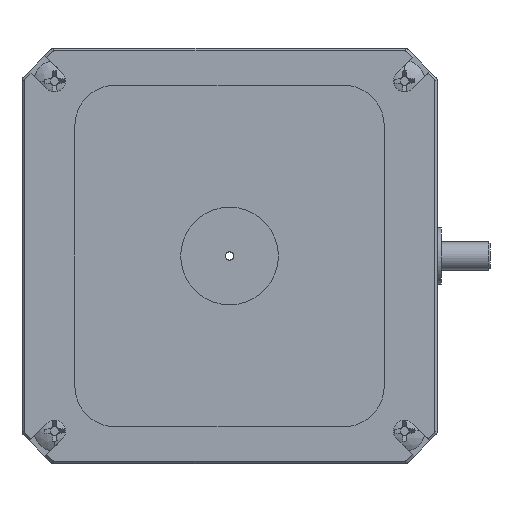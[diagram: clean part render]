
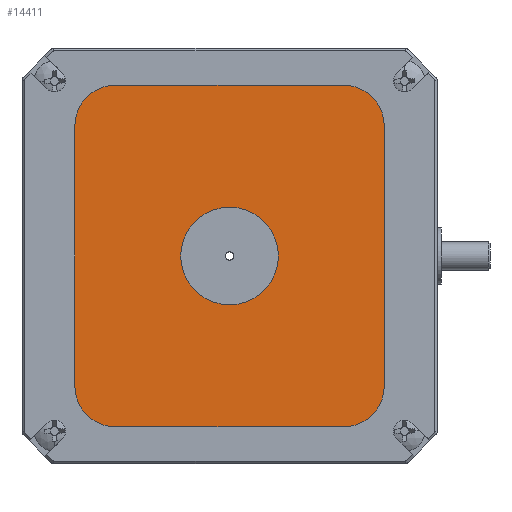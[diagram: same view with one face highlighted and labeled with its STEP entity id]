
A CAD part, front view. The second image highlights one B-rep face of the part: STEP entity #14411.
In plain terms, the highlighted planar face has unit normal (0, -1, 0).
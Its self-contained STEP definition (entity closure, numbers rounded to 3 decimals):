
#2069 = VERTEX_POINT ( 'NONE', #103216 ) ;
#2165 = AXIS2_PLACEMENT_3D ( 'NONE', #92356, #44275, #100451 ) ;
#7197 = AXIS2_PLACEMENT_3D ( 'NONE', #58116, #10117, #66151 ) ;
#7526 = CARTESIAN_POINT ( 'NONE',  ( -14., 0.2, 21. ) ) ;
#7970 = CARTESIAN_POINT ( 'NONE',  ( -19., 0.2, -16. ) ) ;
#10117 = DIRECTION ( 'NONE',  ( 0., -1., 0. ) ) ;
#11294 = DIRECTION ( 'NONE',  ( 0., 0., 1. ) ) ;
#12100 = VERTEX_POINT ( 'NONE', #99331 ) ;
#12381 = LINE ( 'NONE', #20998, #31168 ) ;
#12499 = EDGE_CURVE ( 'NONE', #12100, #17115, #77841, .T. ) ;
#13583 = AXIS2_PLACEMENT_3D ( 'NONE', #38434, #94557, #46473 ) ;
#14411 = ADVANCED_FACE ( 'NONE', ( #102490, #19613 ), #94764, .F. ) ;
#15654 = CIRCLE ( 'NONE', #55916, 6. ) ;
#17115 = VERTEX_POINT ( 'NONE', #44161 ) ;
#19613 = FACE_BOUND ( 'NONE', #26594, .T. ) ;
#20998 = CARTESIAN_POINT ( 'NONE',  ( 19., 0.2, 21. ) ) ;
#22276 = LINE ( 'NONE', #75073, #43558 ) ;
#23253 = CARTESIAN_POINT ( 'NONE',  ( 19., 0.2, -16. ) ) ;
#24450 = VERTEX_POINT ( 'NONE', #47164 ) ;
#25794 = VERTEX_POINT ( 'NONE', #7526 ) ;
#26116 = ORIENTED_EDGE ( 'NONE', *, *, #101977, .F. ) ;
#26594 = EDGE_LOOP ( 'NONE', ( #26116, #101585 ) ) ;
#26918 = VERTEX_POINT ( 'NONE', #7970 ) ;
#27706 = EDGE_CURVE ( 'NONE', #96870, #12100, #22276, .T. ) ;
#28116 = CARTESIAN_POINT ( 'NONE',  ( 0., 0.2, 0. ) ) ;
#28217 = AXIS2_PLACEMENT_3D ( 'NONE', #30923, #87004, #38988 ) ;
#28630 = ORIENTED_EDGE ( 'NONE', *, *, #27706, .T. ) ;
#29607 = VERTEX_POINT ( 'NONE', #85698 ) ;
#30923 = CARTESIAN_POINT ( 'NONE',  ( 0., 0.2, 0. ) ) ;
#31168 = VECTOR ( 'NONE', #68964, 1000. ) ;
#35607 = LINE ( 'NONE', #100982, #78215 ) ;
#36201 = DIRECTION ( 'NONE',  ( 0., 0., 1. ) ) ;
#38434 = CARTESIAN_POINT ( 'NONE',  ( -14., 0.2, -16. ) ) ;
#38529 = ORIENTED_EDGE ( 'NONE', *, *, #50003, .T. ) ;
#38988 = DIRECTION ( 'NONE',  ( 0., 0., 1. ) ) ;
#42370 = CARTESIAN_POINT ( 'NONE',  ( 0., 0.2, 0. ) ) ;
#43558 = VECTOR ( 'NONE', #11294, 1000. ) ;
#44161 = CARTESIAN_POINT ( 'NONE',  ( 14., 0.2, 21. ) ) ;
#44275 = DIRECTION ( 'NONE',  ( 0., -1., 0. ) ) ;
#45835 = EDGE_CURVE ( 'NONE', #29607, #2069, #15654, .T. ) ;
#46473 = DIRECTION ( 'NONE',  ( 0., 0., 1. ) ) ;
#47164 = CARTESIAN_POINT ( 'NONE',  ( -19., 0.2, 16. ) ) ;
#47653 = DIRECTION ( 'NONE',  ( 0., -1., 0. ) ) ;
#50003 = EDGE_CURVE ( 'NONE', #25794, #24450, #58974, .T. ) ;
#50466 = DIRECTION ( 'NONE',  ( 0., 0., 1. ) ) ;
#51821 = ORIENTED_EDGE ( 'NONE', *, *, #70537, .T. ) ;
#52845 = DIRECTION ( 'NONE',  ( 1., 0., 0. ) ) ;
#55916 = AXIS2_PLACEMENT_3D ( 'NONE', #42370, #98543, #50466 ) ;
#56604 = VERTEX_POINT ( 'NONE', #91821 ) ;
#58116 = CARTESIAN_POINT ( 'NONE',  ( 14., 0.2, 16. ) ) ;
#58974 = CIRCLE ( 'NONE', #85256, 5. ) ;
#60850 = ORIENTED_EDGE ( 'NONE', *, *, #74285, .T. ) ;
#61017 = VECTOR ( 'NONE', #75798, 1000. ) ;
#63526 = LINE ( 'NONE', #99740, #61017 ) ;
#64357 = EDGE_CURVE ( 'NONE', #81910, #96870, #72790, .T. ) ;
#66151 = DIRECTION ( 'NONE',  ( 0., 0., 1. ) ) ;
#66715 = ORIENTED_EDGE ( 'NONE', *, *, #64357, .T. ) ;
#68964 = DIRECTION ( 'NONE',  ( -1., 0., 0. ) ) ;
#70537 = EDGE_CURVE ( 'NONE', #17115, #25794, #12381, .T. ) ;
#72790 = CIRCLE ( 'NONE', #2165, 5. ) ;
#74285 = EDGE_CURVE ( 'NONE', #26918, #56604, #104120, .T. ) ;
#74871 = CIRCLE ( 'NONE', #94842, 6. ) ;
#75073 = CARTESIAN_POINT ( 'NONE',  ( 19., 0.2, -21. ) ) ;
#75136 = ORIENTED_EDGE ( 'NONE', *, *, #89517, .T. ) ;
#75798 = DIRECTION ( 'NONE',  ( 0., 0., -1. ) ) ;
#77841 = CIRCLE ( 'NONE', #7197, 5. ) ;
#78215 = VECTOR ( 'NONE', #52845, 1000. ) ;
#81910 = VERTEX_POINT ( 'NONE', #87344 ) ;
#84204 = DIRECTION ( 'NONE',  ( 0., -1., 0. ) ) ;
#85256 = AXIS2_PLACEMENT_3D ( 'NONE', #95711, #47653, #103849 ) ;
#85698 = CARTESIAN_POINT ( 'NONE',  ( 0., 0.2, -6. ) ) ;
#87004 = DIRECTION ( 'NONE',  ( 0., 1., 0. ) ) ;
#87344 = CARTESIAN_POINT ( 'NONE',  ( 14., 0.2, -21. ) ) ;
#87443 = ORIENTED_EDGE ( 'NONE', *, *, #90418, .T. ) ;
#87642 = EDGE_LOOP ( 'NONE', ( #87443, #66715, #28630, #94832, #51821, #38529, #75136, #60850 ) ) ;
#89517 = EDGE_CURVE ( 'NONE', #24450, #26918, #63526, .T. ) ;
#90418 = EDGE_CURVE ( 'NONE', #56604, #81910, #35607, .T. ) ;
#91821 = CARTESIAN_POINT ( 'NONE',  ( -14., 0.2, -21. ) ) ;
#92356 = CARTESIAN_POINT ( 'NONE',  ( 14., 0.2, -16. ) ) ;
#94557 = DIRECTION ( 'NONE',  ( 0., -1., 0. ) ) ;
#94764 = PLANE ( 'NONE',  #28217 ) ;
#94832 = ORIENTED_EDGE ( 'NONE', *, *, #12499, .T. ) ;
#94842 = AXIS2_PLACEMENT_3D ( 'NONE', #28116, #84204, #36201 ) ;
#95711 = CARTESIAN_POINT ( 'NONE',  ( -14., 0.2, 16. ) ) ;
#96870 = VERTEX_POINT ( 'NONE', #23253 ) ;
#98543 = DIRECTION ( 'NONE',  ( 0., -1., 0. ) ) ;
#99331 = CARTESIAN_POINT ( 'NONE',  ( 19., 0.2, 16. ) ) ;
#99740 = CARTESIAN_POINT ( 'NONE',  ( -19., 0.2, -21. ) ) ;
#100451 = DIRECTION ( 'NONE',  ( 0., 0., 1. ) ) ;
#100982 = CARTESIAN_POINT ( 'NONE',  ( 19., 0.2, -21. ) ) ;
#101585 = ORIENTED_EDGE ( 'NONE', *, *, #45835, .F. ) ;
#101977 = EDGE_CURVE ( 'NONE', #2069, #29607, #74871, .T. ) ;
#102490 = FACE_OUTER_BOUND ( 'NONE', #87642, .T. ) ;
#103216 = CARTESIAN_POINT ( 'NONE',  ( 0., 0.2, 6. ) ) ;
#103849 = DIRECTION ( 'NONE',  ( 0., 0., 1. ) ) ;
#104120 = CIRCLE ( 'NONE', #13583, 5. ) ;
